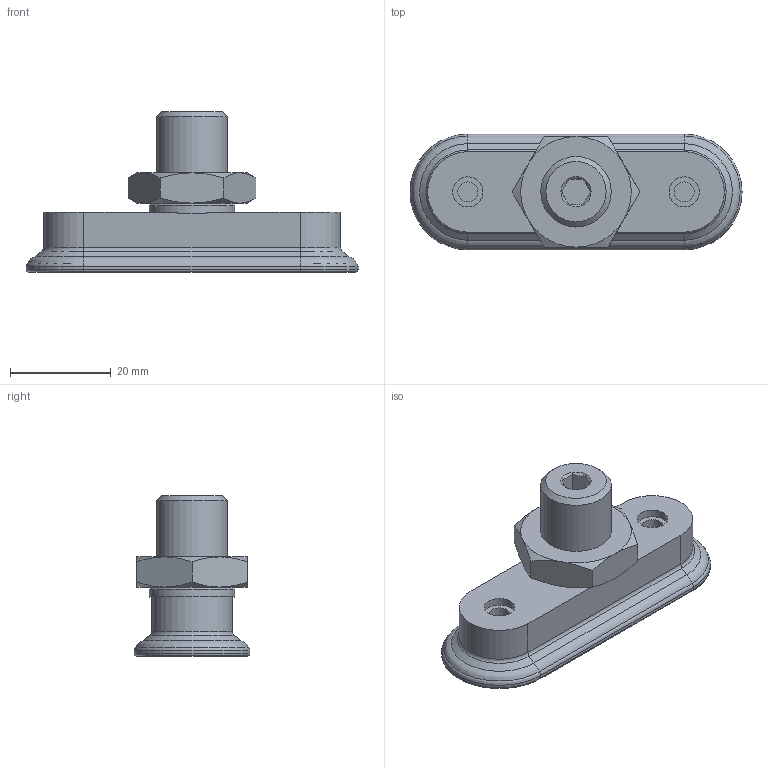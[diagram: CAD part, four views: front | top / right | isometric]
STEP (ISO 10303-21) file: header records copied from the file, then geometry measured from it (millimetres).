
FILE_DESCRIPTION(/* description */ ('Norm'),/* implementation_level */ '2;1');
FILE_NAME(/* name */ 'W:\Technik\Konstruktion\CAD-Daten\Vakuumsauger\130_\130.65x20.150\130.65x20.150-KD.stp',/* time_stamp */ '2020-08-19T09:49:56+02:00',/* author */ ('Rkob'),/* organization */ (''),/* preprocessor_version */ 'ST-DEVELOPER v17',/* originating_system */ 'Autodesk Inventor 2019',/* authorisation */ '');
FILE_SCHEMA (('AUTOMOTIVE_DESIGN { 1 0 10303 214 3 1 1 }'));
Length unit declared in the file: millimetre
Products named in the file (1): 130.65x20.150-KD_Shrinkwrap_1
Bounding box: 66 x 23 x 32 mm (x, y, z)
Volume: 16047 mm3; surface area: 6509.3 mm2
Topology: 1 solids, 1 shells, 89 faces, 189 edges, 111 vertices
Faces by surface type: plane 35, cone 22, cylinder 22, torus 10
Full cylindrical faces by diameter (mm): 4 x2, 6 x2, 9.73 x1, 12.5 x1, 14 x1, 17 x1
Entity records: 2461 total; most frequent: CARTESIAN_POINT 466, DIRECTION 412, ORIENTED_EDGE 378, EDGE_CURVE 189, AXIS2_PLACEMENT_3D 171, VERTEX_POINT 111, EDGE_LOOP 98, STYLED_ITEM 90
